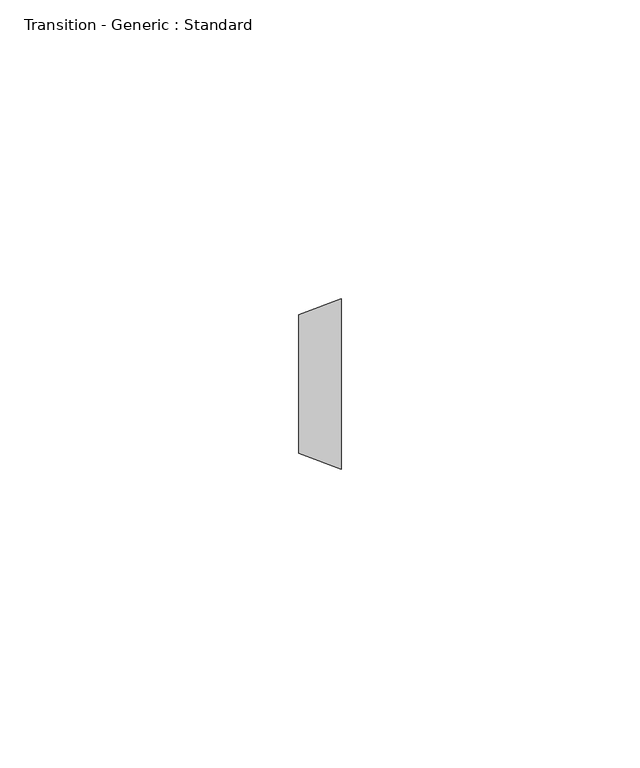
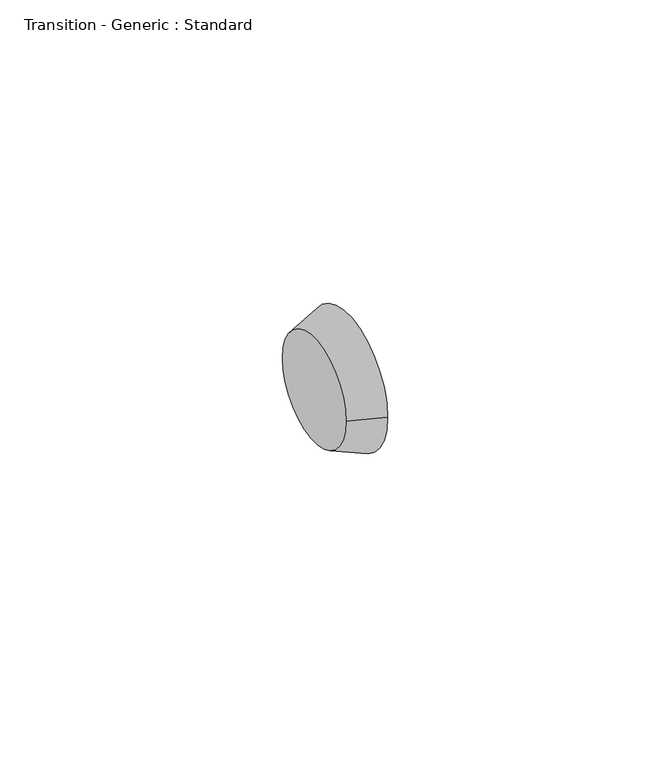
"""IFC4 building model written with IfcOpenShell, lengths in millimetres: pipe fitting geometry, Transition - Generic : Standard."""

from ifc_helpers import new_model, si_unit, frame, origin, place, context, project, spatial, polyline, circle_curve, source, transform, mapped, element, save
from ifc_brep_helpers import plane_surface, revolved_surface, advanced_brep


def transition_generic_standard_b317fa81(model_context):
    return source(origin(), model_context, "Body", "AdvancedBrep", [
        advanced_brep(
        [(7.14375, -14.2875, 0.0), (7.14375, 14.2875, 0.0), (0.0, -11.5875, 0.0), (0.0, 11.5875, 0.0)],
        [
            (0, 1, circle_curve(frame((7.14375, 0.0, 0.0), z_axis=(1.0, 0.0, 0.0), x_axis=(0.0, -1.0, 0.0)), 14.2875)),
            (1, 0, circle_curve(frame((7.14375, 0.0, 0.0), z_axis=(1.0, 0.0, 0.0), x_axis=(0.0, 1.0, 0.0)), 14.2875)),
            (2, 3, circle_curve(frame((0.0, 0.0, 0.0), z_axis=(-1.0, 0.0, 0.0), x_axis=(0.0, 1.0, 0.0)), 11.5875)),
            (3, 2, circle_curve(frame((0.0, 0.0, 0.0), z_axis=(-1.0, 0.0, 0.0), x_axis=(0.0, -1.0, 0.0)), 11.5875)),
            (3, 1),
            (0, 2),
        ],
        [
            plane_surface(frame((7.14375, 0.0, 0.0), z_axis=(1.0, 0.0, 0.0), x_axis=(0.0, 0.0, -1.0))),
            plane_surface(frame((0.0, 0.0, 0.0), z_axis=(-1.0, 0.0, 0.0), x_axis=(0.0, 0.0, -1.0))),
            revolved_surface(polyline([(0.0, 11.587499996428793, 0.0), (7.143750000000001, 14.2875, 0.0)]), (-30.6585937, 0.0, 0.0), (1.0, 0.0, 0.0)),
            revolved_surface(polyline([(0.0, -11.587499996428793, 0.0), (7.143750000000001, -14.2875, 0.0)]), (-30.6585937, 0.0, 0.0), (1.0, 0.0, 0.0)),
        ],
        [
            (0, [[1, 2]]),
            (1, [[3, 4]]),
            (2, [[-4, 5, -1, 6]]),
            (3, [[-3, -6, -2, -5]]),
        ],
    ),
    ])


if __name__ == "__main__":
    model = new_model("IFC4")
    model_context = context("Model", 3, world=origin())
    ifc_project = project(units=[si_unit("LENGTHUNIT", "METRE", prefix="MILLI")], contexts=[model_context])
    site = spatial("IfcSite", under=ifc_project)
    building = spatial("IfcBuilding", under=site)
    placement = place(None, origin())
    transition_generic_standard_shape = transition_generic_standard_b317fa81(model_context)
    element("IfcPipeFitting", 1, ObjectType="Transition - Generic : Standard", at=placement, inside=building, context=model_context, shape_type="MappedRepresentation", body=[
        mapped(transition_generic_standard_shape, transform((0.0, 0.0, 0.0), x_axis=(1.0, 0.0, 0.0), y_axis=(0.0, 1.0, 0.0), z_axis=(0.0, 0.0, 1.0))),
    ])
    save(model, "model.ifc")
